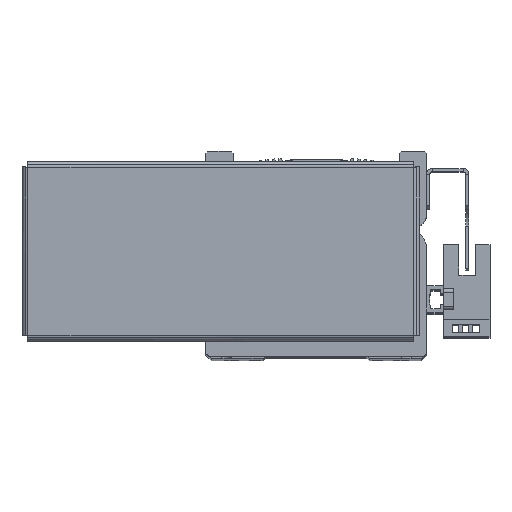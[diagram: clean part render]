
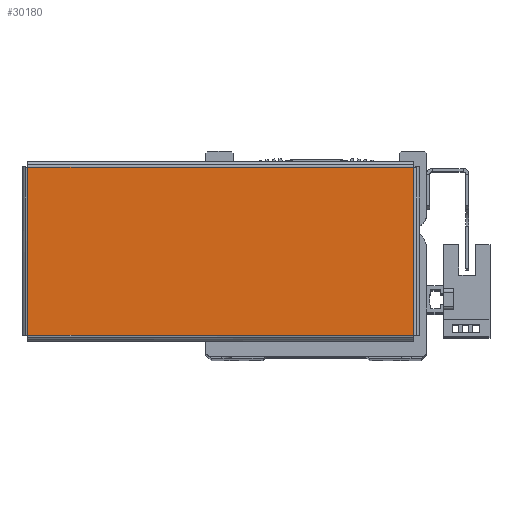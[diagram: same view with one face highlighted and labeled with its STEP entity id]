
A CAD part, top view. The second image highlights one B-rep face of the part: STEP entity #30180.
In plain terms, the highlighted planar face has unit normal (0, 0, 1) as drawn and (0, 0, -1) by its records, which use the part's own axes.
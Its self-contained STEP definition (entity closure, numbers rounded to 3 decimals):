
#3189 = EDGE_CURVE ( 'NONE', #3291, #3366, #11069, .T. ) ;
#3207 = EDGE_CURVE ( 'NONE', #3354, #3291, #11057, .T. ) ;
#3211 = EDGE_CURVE ( 'NONE', #3366, #3370, #11149, .T. ) ;
#3248 = EDGE_CURVE ( 'NONE', #3370, #3354, #11113, .T. ) ;
#3291 = VERTEX_POINT ( 'NONE', #12828 ) ;
#3354 = VERTEX_POINT ( 'NONE', #12872 ) ;
#3366 = VERTEX_POINT ( 'NONE', #12889 ) ;
#3370 = VERTEX_POINT ( 'NONE', #12954 ) ;
#11057 = LINE ( 'NONE', #12584, #11063 ) ;
#11063 = VECTOR ( 'NONE', #12602, 1000. ) ;
#11069 = LINE ( 'NONE', #12567, #11081 ) ;
#11081 = VECTOR ( 'NONE', #12566, 1000. ) ;
#11113 = LINE ( 'NONE', #12740, #11125 ) ;
#11125 = VECTOR ( 'NONE', #12725, 1000. ) ;
#11139 = VECTOR ( 'NONE', #12655, 1000. ) ;
#11149 = LINE ( 'NONE', #12641, #11139 ) ;
#12566 = DIRECTION ( 'NONE',  ( -1., 0., 0. ) ) ;
#12567 = CARTESIAN_POINT ( 'NONE',  ( 56.893, -24.763, -1. ) ) ;
#12584 = CARTESIAN_POINT ( 'NONE',  ( 56.863, 24.793, -1. ) ) ;
#12602 = DIRECTION ( 'NONE',  ( 0., -1., 0. ) ) ;
#12641 = CARTESIAN_POINT ( 'NONE',  ( -56.863, -24.793, -1. ) ) ;
#12655 = DIRECTION ( 'NONE',  ( 0., 1., 0. ) ) ;
#12725 = DIRECTION ( 'NONE',  ( 1., 0., 0. ) ) ;
#12740 = CARTESIAN_POINT ( 'NONE',  ( -56.893, 24.763, -1. ) ) ;
#12828 = CARTESIAN_POINT ( 'NONE',  ( 56.863, -24.763, -1. ) ) ;
#12872 = CARTESIAN_POINT ( 'NONE',  ( 56.863, 24.763, -1. ) ) ;
#12889 = CARTESIAN_POINT ( 'NONE',  ( -56.863, -24.763, -1. ) ) ;
#12954 = CARTESIAN_POINT ( 'NONE',  ( -56.863, 24.763, -1. ) ) ;
#15922 = DIRECTION ( 'NONE',  ( 1., 0., 0. ) ) ;
#15935 = DIRECTION ( 'NONE',  ( 0., 0., 1. ) ) ;
#15956 = CARTESIAN_POINT ( 'NONE',  ( 0., 0., -1. ) ) ;
#15971 = PLANE ( 'NONE',  #34281 ) ;
#16805 = FACE_OUTER_BOUND ( 'NONE', #38988, .T. ) ;
#30180 = ADVANCED_FACE ( 'NONE', ( #16805 ), #15971, .F. ) ;
#34281 = AXIS2_PLACEMENT_3D ( 'NONE', #15956, #15935, #15922 ) ;
#34582 = ORIENTED_EDGE ( 'NONE', *, *, #3207, .T. ) ;
#34595 = ORIENTED_EDGE ( 'NONE', *, *, #3189, .T. ) ;
#34612 = ORIENTED_EDGE ( 'NONE', *, *, #3211, .T. ) ;
#34645 = ORIENTED_EDGE ( 'NONE', *, *, #3248, .T. ) ;
#38988 = EDGE_LOOP ( 'NONE', ( #34582, #34595, #34612, #34645 ) ) ;
